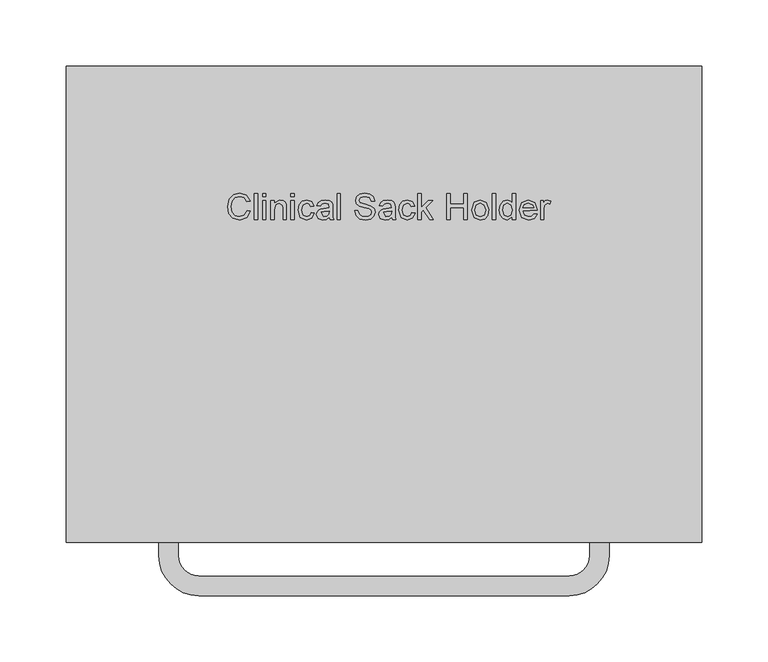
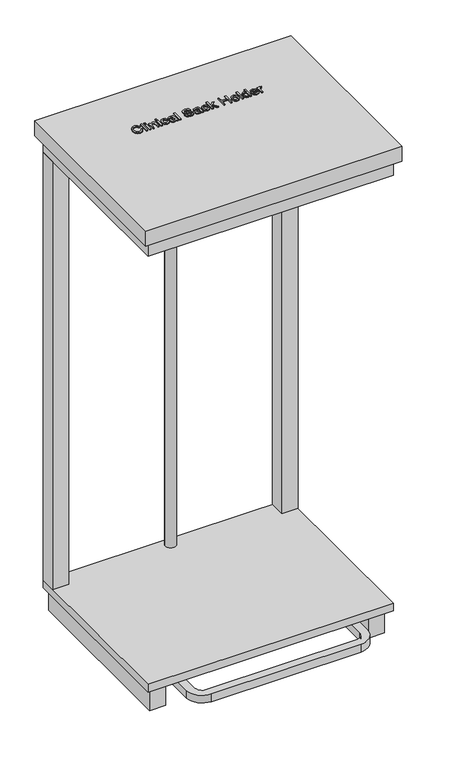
"""IFC4 building model written with IfcOpenShell, lengths in millimetres: furniture geometry, BIMHealth-Sack_Holder_Clinical-LOD2A-v1 : BIMHealth-Sack_Holder_Clinical-LOD2A-v1."""

from ifc_helpers import new_model, si_unit, point, frame, frame_2d, origin, origin_with_axes, place, context, project, spatial, polyline, circle_curve, trimmed, segment, composite_curve, outline, extrude, source, transform, mapped, element, save


def furniture_894fabce(model_context):
    return source(origin(), model_context, "Body", "SweptSolid", [
        extrude(outline(polyline([(116.6607141, -88.9720816), (119.1222526, -89.606697), (116.2039833, -94.5706393), (111.0501372, -96.279774), (105.927541, -94.9865047), (102.9227333, -91.2413124), (101.8914833, -85.9768893), (103.0573487, -80.6259278), (106.3722526, -77.1571778), (111.1030218, -75.9720816), (116.0333103, -77.5057355), (118.8145603, -81.8230432), (116.3530218, -82.4095816), (114.333791, -79.3831393), (111.006868, -78.4336201), (107.1559064, -79.4865047), (104.9804256, -82.3134278), (104.3530218, -85.9720816), (105.0958103, -90.2124663), (107.4083103, -92.9216009), (110.8049449, -93.8182355), (114.5717718, -92.5970816), (116.6607141, -88.9720816)])), frame((0.0, 0.0, 970.0), z_axis=(0.0, 0.0, 1.0), x_axis=(1.0, 0.0, 0.0)), (0.0, 0.0, 1.0), 2.0),
        extrude(outline(polyline([(122.1991756, -95.9720816), (122.1991756, -76.279774), (124.6607141, -76.279774), (124.6607141, -95.9720816), (122.1991756, -95.9720816)])), frame((0.0, 0.0, 970.0), z_axis=(0.0, 0.0, 1.0), x_axis=(1.0, 0.0, 0.0)), (0.0, 0.0, 1.0), 2.0),
        extrude(outline(polyline([(128.3530218, -95.9720816), (128.3530218, -81.5105432), (130.8145603, -81.5105432), (130.8145603, -95.9720816), (128.3530218, -95.9720816)])), frame((0.0, 0.0, 970.0), z_axis=(0.0, 0.0, 1.0), x_axis=(1.0, 0.0, 0.0)), (0.0, 0.0, 1.0), 2.0),
        extrude(outline(polyline([(128.3530218, -78.7413124), (128.3530218, -76.279774), (130.8145603, -76.279774), (130.8145603, -78.7413124), (128.3530218, -78.7413124)])), frame((0.0, 0.0, 970.0), z_axis=(0.0, 0.0, 1.0), x_axis=(1.0, 0.0, 0.0)), (0.0, 0.0, 1.0), 2.0),
        extrude(outline(polyline([(134.506868, -95.9720816), (134.506868, -81.5105432), (136.9684064, -81.5105432), (136.9684064, -83.529774), (141.4203295, -81.2028509), (143.7448487, -81.6716009), (145.3313872, -82.9023701), (146.069368, -84.7124663), (146.1991756, -87.092274), (146.1991756, -95.9720816), (143.7376372, -95.9720816), (143.7376372, -87.4240047), (143.4539833, -85.2461201), (140.7616756, -83.6643893), (138.0910026, -84.6307355), (136.9684064, -88.2990047), (136.9684064, -95.9720816), (134.506868, -95.9720816)])), frame((0.0, 0.0, 970.0), z_axis=(0.0, 0.0, 1.0), x_axis=(1.0, 0.0, 0.0)), (0.0, 0.0, 1.0), 2.0),
        extrude(outline(polyline([(149.583791, -95.9720816), (149.583791, -81.5105432), (152.0453295, -81.5105432), (152.0453295, -95.9720816), (149.583791, -95.9720816)])), frame((0.0, 0.0, 970.0), z_axis=(0.0, 0.0, 1.0), x_axis=(1.0, 0.0, 0.0)), (0.0, 0.0, 1.0), 2.0),
        extrude(outline(polyline([(149.583791, -78.7413124), (149.583791, -76.279774), (152.0453295, -76.279774), (152.0453295, -78.7413124), (149.583791, -78.7413124)])), frame((0.0, 0.0, 970.0), z_axis=(0.0, 0.0, 1.0), x_axis=(1.0, 0.0, 0.0)), (0.0, 0.0, 1.0), 2.0),
        extrude(outline(polyline([(164.9684064, -90.7413124), (167.4299449, -91.0490047), (165.4539833, -94.8927547), (161.5501372, -96.279774), (156.8842718, -94.3446778), (155.1222526, -88.794197), (155.8746564, -84.7052547), (158.1679256, -82.0778509), (161.5164833, -81.2028509), (165.2592718, -82.404774), (167.1222526, -85.8182355), (164.6607141, -86.1259278), (163.5188872, -84.2821778), (161.5357141, -83.6643893), (158.6823487, -84.8807355), (157.583791, -88.7268893), (158.6583103, -92.6091009), (161.4684064, -93.8182355), (163.788118, -93.0634278), (164.9684064, -90.7413124)])), frame((0.0, 0.0, 970.0), z_axis=(0.0, 0.0, 1.0), x_axis=(1.0, 0.0, 0.0)), (0.0, 0.0, 1.0), 2.0),
        extrude(outline(polyline([(178.8145603, -94.1259278), (176.427541, -95.794197), (173.7905218, -96.279774), (170.2160026, -95.1115047), (168.9684064, -92.1259278), (169.4395603, -90.1788124), (170.677541, -88.7653509), (172.4010987, -87.9576586), (174.5309064, -87.5874663), (178.8001372, -86.7413124), (178.1366756, -84.3759278), (175.4155218, -83.6643893), (172.9251372, -84.137947), (171.7376372, -85.8182355), (169.2760987, -85.5105432), (170.3410026, -83.106697), (172.4852333, -81.6980432), (175.7328295, -81.2028509), (178.7160026, -81.6403509), (180.4010987, -82.7389086), (181.1559064, -84.4095816), (181.2760987, -86.5634278), (181.2760987, -89.6259278), (181.4010987, -93.9023701), (181.8914833, -95.9720816), (179.4299449, -95.9720816), (178.8145603, -94.1259278)]), holes=[polyline([(178.8073487, -89.5514086), (174.8434064, -89.9576586), (172.725618, -90.356697), (174.3145603, -93.8182355), (176.8049449, -93.2292932), (178.4107141, -91.8038124), (178.8073487, -89.5514086)])]), frame((0.0, 0.0, 970.0), z_axis=(0.0, 0.0, 1.0), x_axis=(1.0, 0.0, 0.0)), (0.0, 0.0, 1.0), 2.0),
        extrude(outline(polyline([(184.6607141, -95.9720816), (184.6607141, -76.279774), (187.1222526, -76.279774), (187.1222526, -95.9720816), (184.6607141, -95.9720816)])), frame((0.0, 0.0, 970.0), z_axis=(0.0, 0.0, 1.0), x_axis=(1.0, 0.0, 0.0)), (0.0, 0.0, 1.0), 2.0),
        extrude(outline(polyline([(197.8914833, -89.2028509), (200.3530218, -89.2028509), (201.146291, -91.6667932), (203.083791, -93.2244855), (206.0357141, -93.8182355), (208.6078295, -93.3687163), (210.2688872, -92.1331393), (210.8145603, -90.481697), (210.4059064, -88.9456393), (208.7328295, -87.8278509), (205.1486949, -86.887947), (201.2905218, -85.6740047), (199.1967718, -83.842274), (198.506868, -81.3951586), (199.3602333, -78.6091009), (201.8530218, -76.6427547), (205.5020603, -75.9720816), (209.396291, -76.6740047), (211.9924449, -78.7365047), (212.9684064, -81.8182355), (210.506868, -81.8182355), (209.1126372, -79.2893893), (205.5982141, -78.4336201), (202.0741756, -79.279774), (200.9684064, -81.3230432), (201.7520603, -83.029774), (205.771291, -84.404774), (210.1270603, -85.6403509), (212.5092718, -87.6355432), (213.2760987, -90.419197), (212.3938872, -93.3639086), (209.8554256, -95.512947), (206.131868, -96.279774), (201.7352333, -95.4528509), (198.9539833, -92.9624663), (197.8914833, -89.2028509)])), frame((0.0, 0.0, 970.0), z_axis=(0.0, 0.0, 1.0), x_axis=(1.0, 0.0, 0.0)), (0.0, 0.0, 1.0), 2.0),
        extrude(outline(polyline([(225.8914833, -94.1259278), (223.5044641, -95.794197), (220.8674449, -96.279774), (217.2929256, -95.1115047), (216.0453295, -92.1259278), (216.5164833, -90.1788124), (217.7544641, -88.7653509), (219.4780218, -87.9576586), (221.6078295, -87.5874663), (225.8770603, -86.7413124), (225.2135987, -84.3759278), (222.4924449, -83.6643893), (220.0020603, -84.137947), (218.8145603, -85.8182355), (216.3530218, -85.5105432), (217.4179256, -83.106697), (219.5621564, -81.6980432), (222.8097526, -81.2028509), (225.7929256, -81.6403509), (227.4780218, -82.7389086), (228.2328295, -84.4095816), (228.3530218, -86.5634278), (228.3530218, -89.6259278), (228.4780218, -93.9023701), (228.9684064, -95.9720816), (226.506868, -95.9720816), (225.8914833, -94.1259278)]), holes=[polyline([(225.8842718, -89.5514086), (221.9203295, -89.9576586), (219.802541, -90.356697), (221.3914833, -93.8182355), (223.881868, -93.2292932), (225.4876372, -91.8038124), (225.8842718, -89.5514086)])]), frame((0.0, 0.0, 970.0), z_axis=(0.0, 0.0, 1.0), x_axis=(1.0, 0.0, 0.0)), (0.0, 0.0, 1.0), 2.0),
        extrude(outline(polyline([(240.9684064, -90.7413124), (243.4299449, -91.0490047), (241.4539833, -94.8927547), (237.5501372, -96.279774), (232.8842718, -94.3446778), (231.1222526, -88.794197), (231.8746564, -84.7052547), (234.1679256, -82.0778509), (237.5164833, -81.2028509), (241.2592718, -82.404774), (243.1222526, -85.8182355), (240.6607141, -86.1259278), (239.5188872, -84.2821778), (237.5357141, -83.6643893), (234.6823487, -84.8807355), (233.583791, -88.7268893), (234.6583103, -92.6091009), (237.4684064, -93.8182355), (239.788118, -93.0634278), (240.9684064, -90.7413124)])), frame((0.0, 0.0, 970.0), z_axis=(0.0, 0.0, 1.0), x_axis=(1.0, 0.0, 0.0)), (0.0, 0.0, 1.0), 2.0),
        extrude(outline(polyline([(245.583791, -95.9720816), (245.583791, -76.279774), (248.0453295, -76.279774), (248.0453295, -86.8615047), (253.5645603, -81.5105432), (256.9684064, -81.5105432), (251.381868, -86.9288124), (257.2760987, -95.9720816), (254.4010987, -95.9720816), (249.6174449, -88.6403509), (248.0453295, -90.1643893), (248.0453295, -95.9720816), (245.583791, -95.9720816)])), frame((0.0, 0.0, 970.0), z_axis=(0.0, 0.0, 1.0), x_axis=(1.0, 0.0, 0.0)), (0.0, 0.0, 1.0), 2.0),
        extrude(outline(polyline([(267.4299449, -95.9720816), (267.4299449, -76.279774), (269.8914833, -76.279774), (269.8914833, -84.279774), (280.3530218, -84.279774), (280.3530218, -76.279774), (282.8145603, -76.279774), (282.8145603, -95.9720816), (280.3530218, -95.9720816), (280.3530218, -86.7413124), (269.8914833, -86.7413124), (269.8914833, -95.9720816), (267.4299449, -95.9720816)])), frame((0.0, 0.0, 970.0), z_axis=(0.0, 0.0, 1.0), x_axis=(1.0, 0.0, 0.0)), (0.0, 0.0, 1.0), 2.0),
        extrude(outline(polyline([(286.1991756, -88.7413124), (288.3289833, -82.8038124), (292.6655218, -81.2028509), (297.3169641, -83.1523701), (299.1222526, -88.5393893), (298.3241756, -92.919197), (295.9996564, -95.3975624), (292.6655218, -96.279774), (287.9852333, -94.3374663), (286.1991756, -88.7413124)]), holes=[polyline([(288.6607141, -88.7365047), (289.8001372, -92.5514086), (292.6655218, -93.8182355), (295.521291, -92.544197), (296.6607141, -88.6595816), (295.5140795, -84.9312163), (292.6655218, -83.6643893), (289.8001372, -84.9264086), (288.6607141, -88.7365047)])]), frame((0.0, 0.0, 970.0), z_axis=(0.0, 0.0, 1.0), x_axis=(1.0, 0.0, 0.0)), (0.0, 0.0, 1.0), 2.0),
        extrude(outline(polyline([(301.8914833, -95.9720816), (301.8914833, -76.279774), (304.3530218, -76.279774), (304.3530218, -95.9720816), (301.8914833, -95.9720816)])), frame((0.0, 0.0, 970.0), z_axis=(0.0, 0.0, 1.0), x_axis=(1.0, 0.0, 0.0)), (0.0, 0.0, 1.0), 2.0),
        extrude(outline(polyline([(316.9684064, -95.9720816), (316.9684064, -93.6499663), (313.0885987, -96.279774), (310.0405218, -95.3278509), (307.8866756, -92.6716009), (307.1222526, -88.7557355), (307.8265795, -84.8374663), (309.9371564, -82.1403509), (313.0789833, -81.2028509), (315.3482141, -81.873524), (316.9684064, -83.6163124), (316.9684064, -76.279774), (319.4299449, -76.279774), (319.4299449, -95.9720816), (316.9684064, -95.9720816)]), holes=[polyline([(309.583791, -88.7461201), (310.694368, -92.5562163), (313.3145603, -93.8182355), (315.9035026, -92.6139086), (316.9684064, -88.9336201), (315.8842718, -84.9384278), (313.2135987, -83.6643893), (310.6222526, -84.887947), (309.583791, -88.7461201)])]), frame((0.0, 0.0, 970.0), z_axis=(0.0, 0.0, 1.0), x_axis=(1.0, 0.0, 0.0)), (0.0, 0.0, 1.0), 2.0),
        extrude(outline(polyline([(333.2472526, -91.6643893), (335.6607141, -91.9720816), (333.4035026, -95.1499663), (329.1991756, -96.279774), (324.0885987, -94.3302547), (322.1991756, -88.8615047), (324.1078295, -83.2124663), (329.0597526, -81.2028509), (333.8698487, -83.2076586), (335.7376372, -88.8470816), (324.6607141, -89.5105432), (326.0765795, -92.7076586), (329.2472526, -93.8182355), (331.6607141, -93.3038124), (333.2472526, -91.6643893)]), holes=[polyline([(324.6607141, -87.0490047), (333.2760987, -87.0490047), (332.2905218, -84.8182355), (329.0501372, -83.6643893), (326.0188872, -84.5850624), (324.6607141, -87.0490047)])]), frame((0.0, 0.0, 970.0), z_axis=(0.0, 0.0, 1.0), x_axis=(1.0, 0.0, 0.0)), (0.0, 0.0, 1.0), 2.0),
        extrude(outline(polyline([(338.1991756, -95.9720816), (338.1991756, -81.5105432), (340.3530218, -81.5105432), (340.3530218, -83.6499663), (341.881868, -81.6788124), (343.4203295, -81.2028509), (345.8914833, -81.9624663), (345.069368, -84.169197), (343.3385987, -83.6643893), (341.0597526, -85.4961201), (340.6607141, -88.3711201), (340.6607141, -95.9720816), (338.1991756, -95.9720816)])), frame((0.0, 0.0, 970.0), z_axis=(0.0, 0.0, 1.0), x_axis=(1.0, 0.0, 0.0)), (0.0, 0.0, 1.0), 2.0),
        extrude(outline(polyline([(-20.0, -340.0), (-20.0, 20.0), (460.0, 20.0), (460.0, -340.0), (-20.0, -340.0)])), frame((0.0, 0.0, 940.0), z_axis=(0.0, 0.0, 1.0), x_axis=(1.0, 0.0, 0.0)), (0.0, 0.0, 1.0), 30.0),
        extrude(outline(composite_curve([segment(trimmed(circle_curve(frame_2d((220.0, -5.0)), 10.0), [point((210.0, -5.0))], [point((230.0, -5.0))], False, "CARTESIAN"), True, "CONTINUOUS"), segment(trimmed(circle_curve(frame_2d((220.0, -5.0)), 10.0), [point((230.0, -5.0))], [point((210.0, -5.0))], False, "CARTESIAN"), True, "CONTINUOUS")], self_intersect=False)), frame((0.0, 0.0, 62.5), z_axis=(0.0, 0.0, 1.0), x_axis=(1.0, 0.0, 0.0)), (0.0, 0.0, 1.0), 847.5),
        extrude(outline(polyline([(420.0, 10.0), (450.0, 10.0), (450.0, -20.0), (420.0, -20.0), (420.0, 10.0)])), frame((0.0, 0.0, 62.5), z_axis=(0.0, 0.0, 1.0), x_axis=(1.0, 0.0, 0.0)), (0.0, 0.0, 1.0), 847.5),
        extrude(outline(polyline([(20.0, 10.0), (20.0, -20.0), (-10.0, -20.0), (-10.0, 10.0), (20.0, 10.0)])), frame((0.0, 0.0, 62.5), z_axis=(0.0, 0.0, 1.0), x_axis=(1.0, 0.0, 0.0)), (0.0, 0.0, 1.0), 847.5),
        extrude(outline(polyline([(450.0, -330.0), (-10.0, -330.0), (-10.0, 10.0), (450.0, 10.0), (450.0, -330.0)])), frame((0.0, 0.0, 47.5), z_axis=(0.0, 0.0, 1.0), x_axis=(1.0, 0.0, 0.0)), (0.0, 0.0, 1.0), 15.0),
        extrude(outline(polyline([(450.0, -330.0), (-10.0, -330.0), (-10.0, 10.0), (450.0, 10.0), (450.0, -330.0)])), frame((0.0, 0.0, 910.0), z_axis=(0.0, 0.0, 1.0), x_axis=(1.0, 0.0, 0.0)), (0.0, 0.0, 1.0), 30.0),
        extrude(outline(polyline([(410.0, -20.0), (30.0, -20.0), (30.0, -317.779018), (0.0, -317.779018), (0.0, 10.0), (440.0, 10.0), (440.0, -317.779018), (410.0, -317.779018), (410.0, -20.0)])), origin_with_axes(), (0.0, 0.0, 1.0), 47.5),
        extrude(outline(composite_curve([segment(polyline([(360.0, -380.0), (80.0, -380.0)]), True, "CONTINUOUS"), segment(trimmed(circle_curve(frame_2d((80.0, -350.0)), 30.0), [point((80.0, -380.0))], [point((50.0, -350.0))], False, "CARTESIAN"), True, "CONTINUOUS"), segment(polyline([(50.0, -350.0), (50.0, -132.779018), (390.0, -132.779018), (390.0, -350.0)]), True, "CONTINUOUS"), segment(trimmed(circle_curve(frame_2d((360.0, -350.0)), 30.0), [point((390.0, -350.0))], [point((360.0, -380.0))], False, "CARTESIAN"), True, "CONTINUOUS")], self_intersect=False), holes=[composite_curve([segment(trimmed(circle_curve(frame_2d((80.0, -350.0)), 15.0), [point((65.0, -350.0))], [point((80.0, -365.0))], True, "CARTESIAN"), True, "CONTINUOUS"), segment(polyline([(80.0, -365.0), (360.0, -365.0)]), True, "CONTINUOUS"), segment(trimmed(circle_curve(frame_2d((360.0, -350.0)), 15.0), [point((360.0, -365.0))], [point((375.0, -350.0))], True, "CARTESIAN"), True, "CONTINUOUS"), segment(polyline([(375.0, -350.0), (375.0, -147.779018), (65.0, -147.779018), (65.0, -350.0)]), True, "CONTINUOUS")], self_intersect=False)]), frame((0.0, 0.0, 27.5), z_axis=(0.0, 0.0, 1.0), x_axis=(1.0, 0.0, 0.0)), (0.0, 0.0, 1.0), 15.0),
    ])


if __name__ == "__main__":
    model = new_model("IFC4")
    model_context = context("Model", 3, world=origin())
    ifc_project = project(units=[si_unit("LENGTHUNIT", "METRE", prefix="MILLI")], contexts=[model_context])
    site = spatial("IfcSite", under=ifc_project)
    building = spatial("IfcBuilding", under=site)
    placement = place(None, origin())
    furniture_shape = furniture_894fabce(model_context)
    element("IfcFurniture", 1, ObjectType="BIMHealth-Sack_Holder_Clinical-LOD2A-v1 : BIMHealth-Sack_Holder_Clinical-LOD2A-v1", at=placement, inside=building, context=model_context, shape_type="MappedRepresentation", body=[
        mapped(furniture_shape, transform((0.0, 0.0, 0.0), x_axis=(1.0, 0.0, 0.0), y_axis=(0.0, 1.0, 0.0), z_axis=(0.0, 0.0, 1.0))),
    ])
    save(model, "model.ifc")
